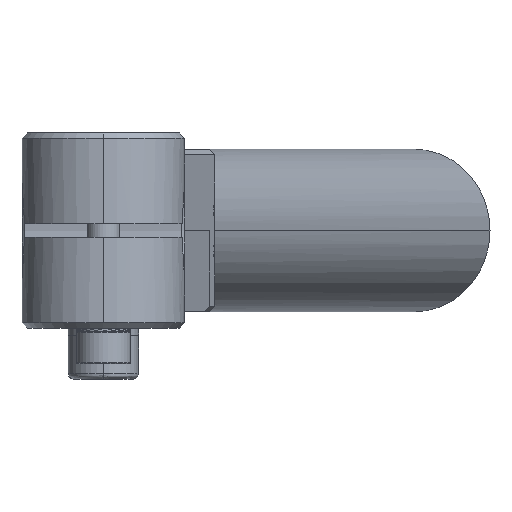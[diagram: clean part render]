
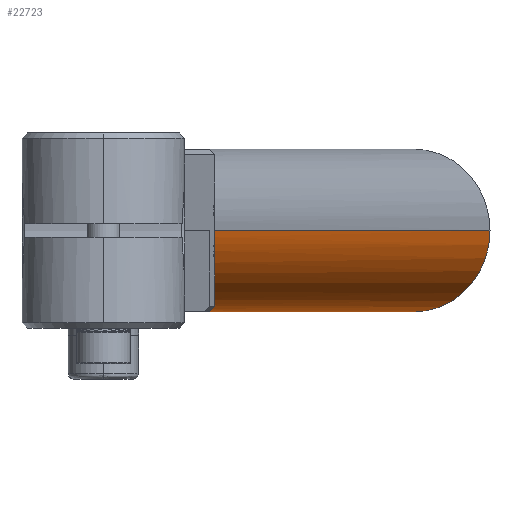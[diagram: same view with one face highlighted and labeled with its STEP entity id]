
A CAD part, left-side view. The second image highlights one B-rep face of the part: STEP entity #22723.
In plain terms, the highlighted cylindrical face has radius 15 mm (diameter 30 mm), a partial arc.
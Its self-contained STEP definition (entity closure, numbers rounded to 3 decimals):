
#326 = DIRECTION ( 'NONE',  ( -0.931, 0.364, 0. ) ) ;
#412 = DIRECTION ( 'NONE',  ( -0.364, -0.931, 0. ) ) ;
#635 = CIRCLE ( 'NONE', #3386, 15. ) ;
#686 = CARTESIAN_POINT ( 'NONE',  ( 61.372, 28.343, -14.729 ) ) ;
#820 = CARTESIAN_POINT ( 'NONE',  ( 195.3, -10.982, 0. ) ) ;
#837 = CARTESIAN_POINT ( 'NONE',  ( 65.677, 39.547, -2.21 ) ) ;
#882 = VERTEX_POINT ( 'NONE', #820 ) ;
#952 = AXIS2_PLACEMENT_3D ( 'NONE', #11351, #26126, #13484 ) ;
#1070 = B_SPLINE_CURVE_WITH_KNOTS ( 'NONE', 3,
 ( #24725, #9928, #12093, #26835, #14216, #1626, #16317, #3729 ),
 .UNSPECIFIED., .F., .F.,
 ( 4, 2, 2, 4 ),
 ( 0., 0.5, 0.75, 1. ),
 .UNSPECIFIED. ) ;
#1230 = CARTESIAN_POINT ( 'NONE',  ( 55.022, 12.032, -3.151 ) ) ;
#1245 = CARTESIAN_POINT ( 'NONE',  ( 184.372, -38.921, 0. ) ) ;
#1254 = VERTEX_POINT ( 'NONE', #26325 ) ;
#1482 = CARTESIAN_POINT ( 'NONE',  ( 55.098, 12.164, -3.779 ) ) ;
#1626 = CARTESIAN_POINT ( 'NONE',  ( 59.219, 22.755, -14.669 ) ) ;
#2562 = CARTESIAN_POINT ( 'NONE',  ( 60.386, 25.682, 0. ) ) ;
#2566 = EDGE_CURVE ( 'NONE', #26877, #21234, #635, .T. ) ;
#2818 = ORIENTED_EDGE ( 'NONE', *, *, #6296, .F. ) ;
#2837 = CARTESIAN_POINT ( 'NONE',  ( 61.077, 27.785, -14.84 ) ) ;
#2860 = VERTEX_POINT ( 'NONE', #14279 ) ;
#2974 = CARTESIAN_POINT ( 'NONE',  ( 65.71, 39.351, -3.151 ) ) ;
#3069 = ORIENTED_EDGE ( 'NONE', *, *, #2566, .F. ) ;
#3147 = ORIENTED_EDGE ( 'NONE', *, *, #10036, .F. ) ;
#3354 = CARTESIAN_POINT ( 'NONE',  ( 54.973, 11.984, -2.837 ) ) ;
#3386 = AXIS2_PLACEMENT_3D ( 'NONE', #2562, #17245, #4640 ) ;
#3729 = CARTESIAN_POINT ( 'NONE',  ( 59.009, 22.163, -14.516 ) ) ;
#3741 = EDGE_CURVE ( 'NONE', #6058, #4416, #21169, .T. ) ;
#4110 = ORIENTED_EDGE ( 'NONE', *, *, #10726, .T. ) ;
#4416 = VERTEX_POINT ( 'NONE', #18341 ) ;
#4464 = CYLINDRICAL_SURFACE ( 'NONE', #26354, 15. ) ;
#4640 = DIRECTION ( 'NONE',  ( -0.364, -0.931, 0. ) ) ;
#4915 = CARTESIAN_POINT ( 'NONE',  ( 60.76, 27.234, -14.92 ) ) ;
#5051 = CARTESIAN_POINT ( 'NONE',  ( 65.674, 39.201, -3.779 ) ) ;
#5107 = EDGE_CURVE ( 'NONE', #2860, #26877, #23368, .T. ) ;
#5419 = CIRCLE ( 'NONE', #952, 15. ) ;
#5439 = CARTESIAN_POINT ( 'NONE',  ( 54.866, 11.907, -2.21 ) ) ;
#6058 = VERTEX_POINT ( 'NONE', #25793 ) ;
#6296 = EDGE_CURVE ( 'NONE', #882, #2860, #7701, .T. ) ;
#6998 = CARTESIAN_POINT ( 'NONE',  ( 60.429, 26.687, -14.97 ) ) ;
#7054 = CARTESIAN_POINT ( 'NONE',  ( 65.384, 39.834, 0. ) ) ;
#7527 = CARTESIAN_POINT ( 'NONE',  ( 54.749, 11.867, -1.581 ) ) ;
#7618 = DIRECTION ( 'NONE',  ( -0.931, 0.364, 0. ) ) ;
#7701 = LINE ( 'NONE', #22362, #23211 ) ;
#7901 = B_SPLINE_CURVE_WITH_KNOTS ( 'NONE', 3,
 ( #21647, #15204, #23798, #11151, #25939, #13299, #686, #15395, #2837, #17515, #4915, #19645, #6998, #21739, #9134, #23902 ),
 .UNSPECIFIED., .F., .F.,
 ( 4, 3, 3, 3, 3, 4 ),
 ( 0., 0.125, 0.25, 0.5, 0.75, 1. ),
 .UNSPECIFIED. ) ;
#9134 = CARTESIAN_POINT ( 'NONE',  ( 60.091, 26.14, -15. ) ) ;
#9618 = CIRCLE ( 'NONE', #26060, 15. ) ;
#9641 = CARTESIAN_POINT ( 'NONE',  ( 54.629, 11.86, -0.951 ) ) ;
#9928 = CARTESIAN_POINT ( 'NONE',  ( 59.799, 25.229, -15. ) ) ;
#10036 = EDGE_CURVE ( 'NONE', #24913, #4416, #22663, .T. ) ;
#10469 = ORIENTED_EDGE ( 'NONE', *, *, #17964, .F. ) ;
#10726 = EDGE_CURVE ( 'NONE', #882, #6058, #9618, .T. ) ;
#10756 = CARTESIAN_POINT ( 'NONE',  ( 189.836, -24.951, 0. ) ) ;
#11151 = CARTESIAN_POINT ( 'NONE',  ( 61.578, 28.768, -14.631 ) ) ;
#11351 = CARTESIAN_POINT ( 'NONE',  ( 60.386, 25.682, 0. ) ) ;
#11778 = CARTESIAN_POINT ( 'NONE',  ( 54.511, 11.874, -0.318 ) ) ;
#11879 = DIRECTION ( 'NONE',  ( -0.931, 0.364, 0. ) ) ;
#12046 = CARTESIAN_POINT ( 'NONE',  ( 189.836, -24.951, 0. ) ) ;
#12093 = CARTESIAN_POINT ( 'NONE',  ( 59.678, 24.599, -14.96 ) ) ;
#12706 = CARTESIAN_POINT ( 'NONE',  ( 65.674, 39.201, -3.779 ) ) ;
#13299 = CARTESIAN_POINT ( 'NONE',  ( 61.443, 28.484, -14.699 ) ) ;
#13439 = CARTESIAN_POINT ( 'NONE',  ( 65.589, 39.711, -1.267 ) ) ;
#13484 = DIRECTION ( 'NONE',  ( -0.364, -0.931, 0. ) ) ;
#13669 = ORIENTED_EDGE ( 'NONE', *, *, #19348, .F. ) ;
#13823 = CARTESIAN_POINT ( 'NONE',  ( 55.043, 12.062, -3.308 ) ) ;
#14168 = DIRECTION ( 'NONE',  ( -0.364, -0.931, 0. ) ) ;
#14216 = CARTESIAN_POINT ( 'NONE',  ( 59.391, 23.362, -14.79 ) ) ;
#14279 = CARTESIAN_POINT ( 'NONE',  ( 65.384, 39.834, 0. ) ) ;
#14805 = ORIENTED_EDGE ( 'NONE', *, *, #3741, .T. ) ;
#15204 = CARTESIAN_POINT ( 'NONE',  ( 61.705, 29.055, -14.557 ) ) ;
#15395 = CARTESIAN_POINT ( 'NONE',  ( 61.229, 28.062, -14.79 ) ) ;
#15529 = CARTESIAN_POINT ( 'NONE',  ( 65.697, 39.486, -2.524 ) ) ;
#15710 = ORIENTED_EDGE ( 'NONE', *, *, #26383, .F. ) ;
#15928 = CARTESIAN_POINT ( 'NONE',  ( 54.998, 12.006, -2.994 ) ) ;
#16317 = CARTESIAN_POINT ( 'NONE',  ( 59.124, 22.456, -14.598 ) ) ;
#16650 = CARTESIAN_POINT ( 'NONE',  ( 59.009, 22.163, -14.516 ) ) ;
#17245 = DIRECTION ( 'NONE',  ( -0.931, 0.364, 0. ) ) ;
#17515 = CARTESIAN_POINT ( 'NONE',  ( 60.918, 27.51, -14.88 ) ) ;
#17633 = FACE_OUTER_BOUND ( 'NONE', #23392, .T. ) ;
#17668 = CARTESIAN_POINT ( 'NONE',  ( 65.704, 39.277, -3.465 ) ) ;
#17957 = CARTESIAN_POINT ( 'NONE',  ( 55.098, 12.164, -3.779 ) ) ;
#17964 = EDGE_CURVE ( 'NONE', #25927, #24913, #5419, .T. ) ;
#18047 = CARTESIAN_POINT ( 'NONE',  ( 54.923, 11.939, -2.524 ) ) ;
#18341 = CARTESIAN_POINT ( 'NONE',  ( 54.456, 11.895, 0. ) ) ;
#19348 = EDGE_CURVE ( 'NONE', #1254, #25927, #1070, .T. ) ;
#19645 = CARTESIAN_POINT ( 'NONE',  ( 60.596, 26.961, -14.95 ) ) ;
#19689 = CARTESIAN_POINT ( 'NONE',  ( 65.495, 39.791, -0.637 ) ) ;
#20075 = CARTESIAN_POINT ( 'NONE',  ( 55.083, 12.125, -3.622 ) ) ;
#20165 = CARTESIAN_POINT ( 'NONE',  ( 54.807, 11.887, -1.896 ) ) ;
#21169 = LINE ( 'NONE', #1245, #26816 ) ;
#21234 = VERTEX_POINT ( 'NONE', #24827 ) ;
#21647 = CARTESIAN_POINT ( 'NONE',  ( 61.763, 29.202, -14.516 ) ) ;
#21739 = CARTESIAN_POINT ( 'NONE',  ( 60.262, 26.413, -14.99 ) ) ;
#22274 = CARTESIAN_POINT ( 'NONE',  ( 54.689, 11.858, -1.267 ) ) ;
#22362 = CARTESIAN_POINT ( 'NONE',  ( 195.3, -10.982, 0. ) ) ;
#22663 = B_SPLINE_CURVE_WITH_KNOTS ( 'NONE', 3,
 ( #17957, #20075, #26454, #13823, #1230, #15928, #3354, #18047, #5439, #20165, #7527, #22274, #9641, #24429, #11778, #26545 ),
 .UNSPECIFIED., .F., .F.,
 ( 4, 3, 3, 3, 3, 4 ),
 ( 0., 0.125, 0.25, 0.5, 0.75, 1. ),
 .UNSPECIFIED. ) ;
#22723 = ADVANCED_FACE ( 'NONE', ( #17633 ), #4464, .T. ) ;
#23211 = VECTOR ( 'NONE', #7618, 1000. ) ;
#23228 = ORIENTED_EDGE ( 'NONE', *, *, #5107, .F. ) ;
#23368 = B_SPLINE_CURVE_WITH_KNOTS ( 'NONE', 3,
 ( #7054, #19689, #13439, #837, #15529, #2974, #17668, #5051 ),
 .UNSPECIFIED., .F., .F.,
 ( 4, 2, 2, 4 ),
 ( 0., 0.5, 0.75, 1. ),
 .UNSPECIFIED. ) ;
#23392 = EDGE_LOOP ( 'NONE', ( #2818, #4110, #14805, #3147, #10469, #13669, #15710, #3069, #23228 ) ) ;
#23798 = CARTESIAN_POINT ( 'NONE',  ( 61.643, 28.911, -14.595 ) ) ;
#23902 = CARTESIAN_POINT ( 'NONE',  ( 59.92, 25.865, -15. ) ) ;
#24429 = CARTESIAN_POINT ( 'NONE',  ( 54.57, 11.862, -0.635 ) ) ;
#24725 = CARTESIAN_POINT ( 'NONE',  ( 59.92, 25.865, -15. ) ) ;
#24827 = CARTESIAN_POINT ( 'NONE',  ( 61.763, 29.202, -14.516 ) ) ;
#24913 = VERTEX_POINT ( 'NONE', #1482 ) ;
#25793 = CARTESIAN_POINT ( 'NONE',  ( 184.372, -38.921, 0. ) ) ;
#25927 = VERTEX_POINT ( 'NONE', #16650 ) ;
#25939 = CARTESIAN_POINT ( 'NONE',  ( 61.512, 28.625, -14.666 ) ) ;
#26060 = AXIS2_PLACEMENT_3D ( 'NONE', #12046, #26791, #14168 ) ;
#26126 = DIRECTION ( 'NONE',  ( -0.931, 0.364, 0. ) ) ;
#26325 = CARTESIAN_POINT ( 'NONE',  ( 59.92, 25.865, -15. ) ) ;
#26354 = AXIS2_PLACEMENT_3D ( 'NONE', #10756, #326, #412 ) ;
#26383 = EDGE_CURVE ( 'NONE', #21234, #1254, #7901, .T. ) ;
#26454 = CARTESIAN_POINT ( 'NONE',  ( 55.065, 12.092, -3.465 ) ) ;
#26545 = CARTESIAN_POINT ( 'NONE',  ( 54.456, 11.895, 0. ) ) ;
#26791 = DIRECTION ( 'NONE',  ( -0.931, 0.364, 0. ) ) ;
#26816 = VECTOR ( 'NONE', #11879, 1000. ) ;
#26835 = CARTESIAN_POINT ( 'NONE',  ( 59.467, 23.669, -14.84 ) ) ;
#26877 = VERTEX_POINT ( 'NONE', #12706 ) ;
